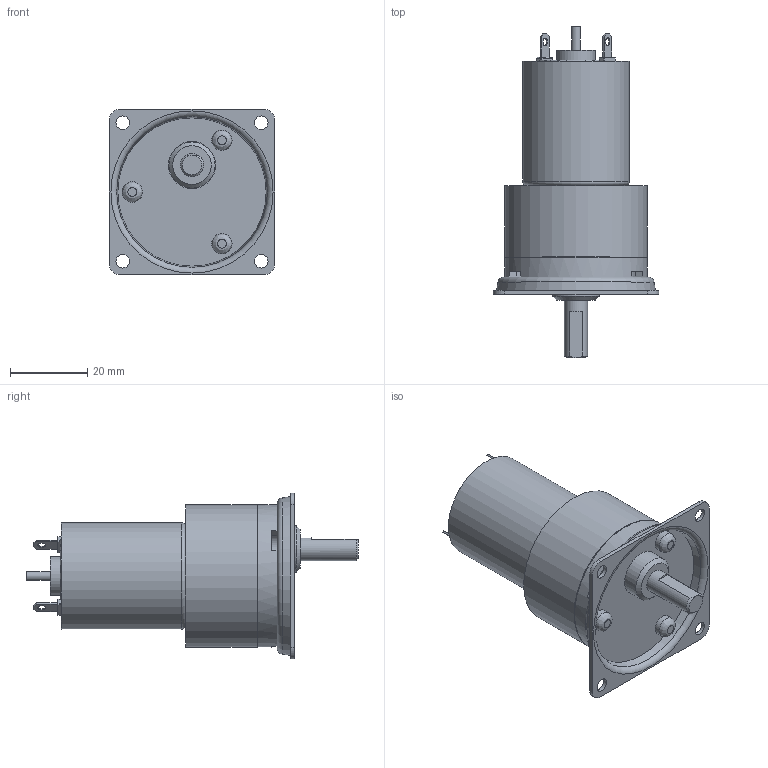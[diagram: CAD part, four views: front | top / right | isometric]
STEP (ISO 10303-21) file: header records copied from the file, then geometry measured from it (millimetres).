
FILE_DESCRIPTION((''),'2;1');
FILE_NAME('C:\Documents and Settings\SSEGAWA\デスクトップ\TP-2732D-PKS-3.STP','2013-07-01T14:00:51',('SSEGAWA'),(''),'Autodesk Inventor 2010','Autodesk Inventor 2010','');
FILE_SCHEMA(('CONFIG_CONTROL_DESIGN'));
Length unit declared in the file: millimetre
Products named in the file (5): tp_2732def_pks_3; pks_3; ks_3; □43; tp_2732d,e,f
Assembly tree (4 placements, depth 3):
  tp_2732def_pks_3
    pks_3
      ks_3
      □43
    tp_2732d,e,f
Bounding box: 43 x 86.2 x 43 mm (x, y, z)
Volume: 48009.6 mm3; surface area: 14870.1 mm2
Topology: 4 solids, 4 shells, 192 faces, 432 edges, 278 vertices
Faces by surface type: plane 106, cylinder 44, bspline 32, torus 6, cone 4
Full cylindrical faces by diameter (mm): 2 x2, 2.305 x2, 2.5 x5, 5.3 x3, 6 x1, 9 x2, 10 x2, 12 x1, 12.2 x1, 19 x1, 26.7 x1, 27.7 x1, 36.6 x1, 37 x2
Entity records: 5411 total; most frequent: CARTESIAN_POINT 1337, DIRECTION 831, ORIENTED_EDGE 702, EDGE_CURVE 351, AXIS2_PLACEMENT_3D 313, EDGE_LOOP 293, VERTEX_POINT 254, VECTOR 205
